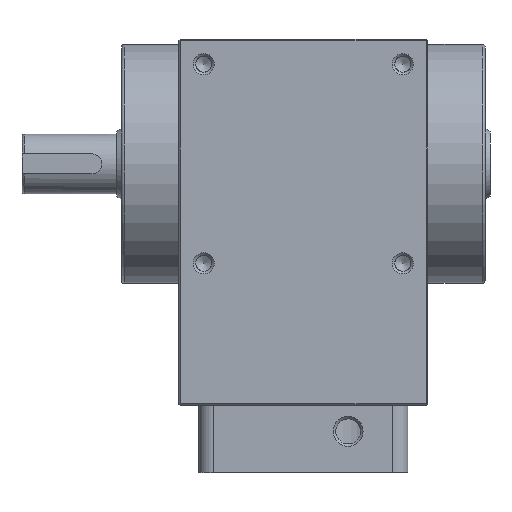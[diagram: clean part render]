
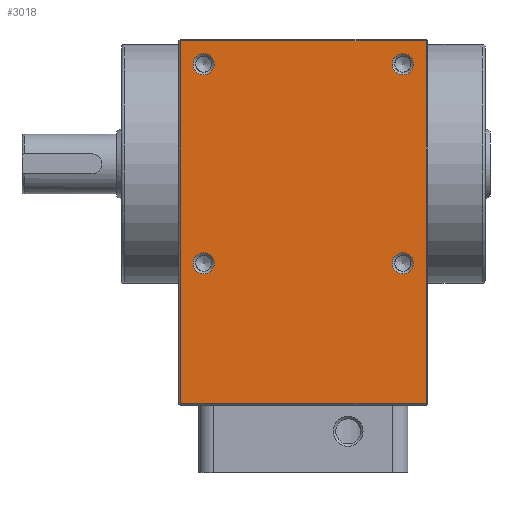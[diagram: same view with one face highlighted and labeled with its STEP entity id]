
A CAD part, top view. The second image highlights one B-rep face of the part: STEP entity #3018.
In plain terms, the highlighted planar face has unit normal (0, 0, 1).
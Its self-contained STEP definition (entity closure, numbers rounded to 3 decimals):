
#349=CARTESIAN_POINT('',(24.7,24.7,50.0));
#350=VERTEX_POINT('',#349);
#357=CARTESIAN_POINT('',(24.7,-48.2,50.0));
#358=VERTEX_POINT('',#357);
#359=CARTESIAN_POINT('',(24.7,24.7,50.0));
#360=DIRECTION('',(0.0,-1.0,0.0));
#361=VECTOR('',#360,72.9);
#362=LINE('',#359,#361);
#363=EDGE_CURVE('',#350,#358,#362,.T.);
#381=CARTESIAN_POINT('',(-24.7,24.7,50.0));
#382=VERTEX_POINT('',#381);
#389=CARTESIAN_POINT('',(-24.7,24.7,50.0));
#390=DIRECTION('',(1.0,0.0,0.0));
#391=VECTOR('',#390,49.4);
#392=LINE('',#389,#391);
#393=EDGE_CURVE('',#382,#350,#392,.T.);
#724=CARTESIAN_POINT('',(-17.879,20.0,50.0));
#725=VERTEX_POINT('',#724);
#726=CARTESIAN_POINT('',(-20.,20.0,50.0));
#727=DIRECTION('',(0.0,0.0,1.0));
#728=DIRECTION('',(-1.0,0.0,0.0));
#729=AXIS2_PLACEMENT_3D('',#726,#727,#728);
#730=CIRCLE('',#729,2.121);
#731=EDGE_CURVE('',#725,#725,#730,.T.);
#799=CARTESIAN_POINT('',(22.121,20.0,50.0));
#800=VERTEX_POINT('',#799);
#801=CARTESIAN_POINT('',(20.0,20.0,50.0));
#802=DIRECTION('',(0.0,0.0,1.0));
#803=DIRECTION('',(-1.0,0.0,0.0));
#804=AXIS2_PLACEMENT_3D('',#801,#802,#803);
#805=CIRCLE('',#804,2.121);
#806=EDGE_CURVE('',#800,#800,#805,.T.);
#856=CARTESIAN_POINT('',(22.121,-20.0,50.0));
#857=VERTEX_POINT('',#856);
#858=CARTESIAN_POINT('',(20.,-20.0,50.0));
#859=DIRECTION('',(0.0,0.0,1.0));
#860=DIRECTION('',(-1.0,0.0,0.0));
#861=AXIS2_PLACEMENT_3D('',#858,#859,#860);
#862=CIRCLE('',#861,2.121);
#863=EDGE_CURVE('',#857,#857,#862,.T.);
#913=CARTESIAN_POINT('',(-17.879,-20.0,50.0));
#914=VERTEX_POINT('',#913);
#915=CARTESIAN_POINT('',(-20.,-20.0,50.0));
#916=DIRECTION('',(0.0,0.0,1.0));
#917=DIRECTION('',(-1.0,0.0,0.0));
#918=AXIS2_PLACEMENT_3D('',#915,#916,#917);
#919=CIRCLE('',#918,2.121);
#920=EDGE_CURVE('',#914,#914,#919,.T.);
#2983=CARTESIAN_POINT('',(0.,0.0,50.0));
#2984=DIRECTION('',(0.0,0.0,1.0));
#2985=DIRECTION('',(1.0,0.0,0.0));
#2986=AXIS2_PLACEMENT_3D('',#2983,#2984,#2985);
#2987=PLANE('',#2986);
#2988=CARTESIAN_POINT('',(-24.7,-48.2,50.0));
#2989=VERTEX_POINT('',#2988);
#2990=CARTESIAN_POINT('',(24.7,-48.2,50.0));
#2991=DIRECTION('',(-1.0,0.0,0.0));
#2992=VECTOR('',#2991,49.4);
#2993=LINE('',#2990,#2992);
#2994=EDGE_CURVE('',#358,#2989,#2993,.T.);
#2995=ORIENTED_EDGE('',*,*,#2994,.F.);
#2996=ORIENTED_EDGE('',*,*,#363,.F.);
#2997=ORIENTED_EDGE('',*,*,#393,.F.);
#2998=CARTESIAN_POINT('',(-24.7,24.7,50.0));
#2999=DIRECTION('',(0.0,-1.0,0.0));
#3000=VECTOR('',#2999,72.9);
#3001=LINE('',#2998,#3000);
#3002=EDGE_CURVE('',#382,#2989,#3001,.T.);
#3003=ORIENTED_EDGE('',*,*,#3002,.T.);
#3004=EDGE_LOOP('',(#2995,#2996,#2997,#3003));
#3005=FACE_OUTER_BOUND('',#3004,.T.);
#3006=ORIENTED_EDGE('',*,*,#920,.F.);
#3007=EDGE_LOOP('',(#3006));
#3008=FACE_BOUND('',#3007,.T.);
#3009=ORIENTED_EDGE('',*,*,#806,.F.);
#3010=EDGE_LOOP('',(#3009));
#3011=FACE_BOUND('',#3010,.T.);
#3012=ORIENTED_EDGE('',*,*,#731,.F.);
#3013=EDGE_LOOP('',(#3012));
#3014=FACE_BOUND('',#3013,.T.);
#3015=ORIENTED_EDGE('',*,*,#863,.F.);
#3016=EDGE_LOOP('',(#3015));
#3017=FACE_BOUND('',#3016,.T.);
#3018=ADVANCED_FACE('',(#3005,#3008,#3011,#3014,#3017),#2987,.T.);
